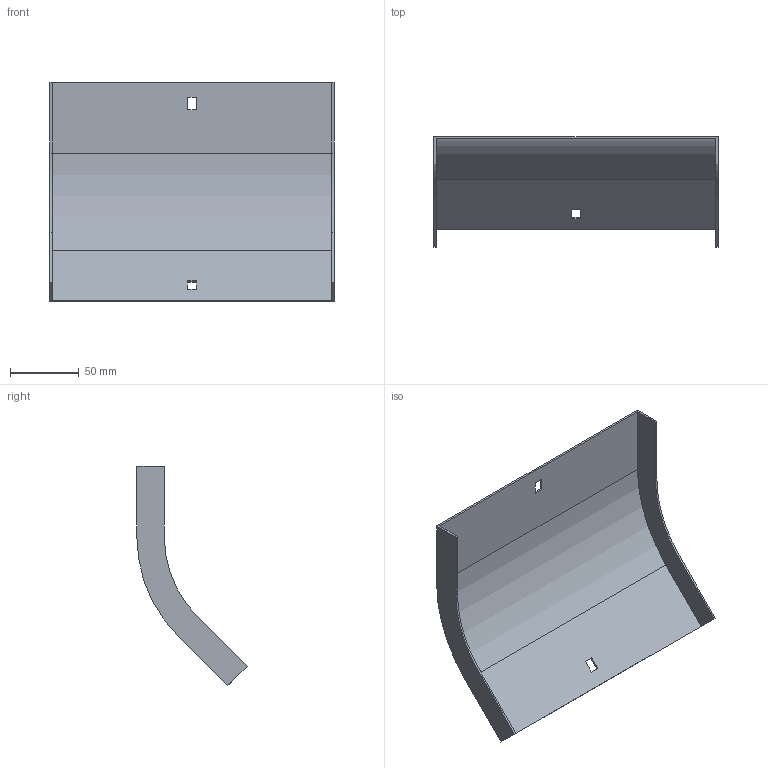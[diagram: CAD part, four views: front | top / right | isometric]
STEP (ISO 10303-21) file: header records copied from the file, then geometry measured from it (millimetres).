
FILE_DESCRIPTION (( 'STEP AP214' ), '1' );
FILE_NAME ('34G1B200.step', '2025-02-21T12:42:53', ( '' ), ( '' ), 'SwSTEP 2.0', 'SolidWorks 2023', '' );
FILE_SCHEMA (( 'AUTOMOTIVE_DESIGN' ));
Length unit declared in the file: millimetre
Products named in the file (1): 34G1B200
Bounding box: 207 x 80.32 x 159.76 mm (x, y, z)
Volume: 66077 mm3; surface area: 89430.8 mm2
Topology: 1 solids, 1 shells, 26 faces, 72 edges, 48 vertices
Faces by surface type: plane 22, cylinder 4
Entity records: 855 total; most frequent: CARTESIAN_POINT 147, ORIENTED_EDGE 144, DIRECTION 134, EDGE_CURVE 72, VECTOR 64, LINE 64, VERTEX_POINT 48, AXIS2_PLACEMENT_3D 35
